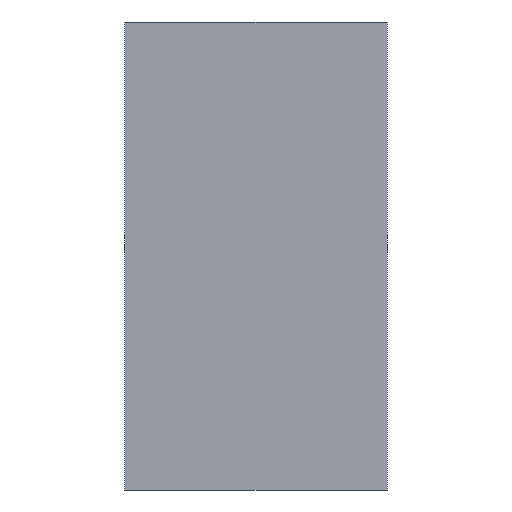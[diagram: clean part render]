
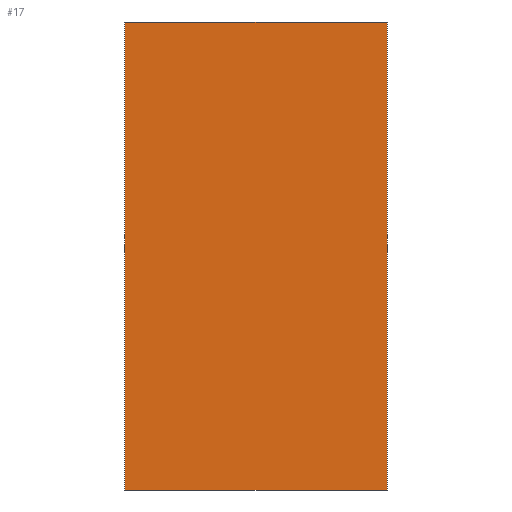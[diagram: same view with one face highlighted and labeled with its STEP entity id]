
A CAD part, left-side view. The second image highlights one B-rep face of the part: STEP entity #17.
In plain terms, the highlighted planar face has unit normal (-1, 0, 0).
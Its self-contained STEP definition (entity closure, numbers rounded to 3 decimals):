
#17 = ADVANCED_FACE('',(#18),#32,.F.);
#18 = FACE_BOUND('',#19,.F.);
#19 = EDGE_LOOP('',(#20,#55,#83,#111));
#20 = ORIENTED_EDGE('',*,*,#21,.F.);
#21 = EDGE_CURVE('',#22,#24,#26,.T.);
#22 = VERTEX_POINT('',#23);
#23 = CARTESIAN_POINT('',(78.,-28.,-305.));
#24 = VERTEX_POINT('',#25);
#25 = CARTESIAN_POINT('',(78.,-28.,-205.));
#26 = SURFACE_CURVE('',#27,(#31,#43),.PCURVE_S1.);
#27 = LINE('',#28,#29);
#28 = CARTESIAN_POINT('',(78.,-28.,-305.));
#29 = VECTOR('',#30,1.);
#30 = DIRECTION('',(0.,0.,1.));
#31 = PCURVE('',#32,#37);
#32 = PLANE('',#33);
#33 = AXIS2_PLACEMENT_3D('',#34,#35,#36);
#34 = CARTESIAN_POINT('',(78.,-28.,-305.));
#35 = DIRECTION('',(1.,0.,0.));
#36 = DIRECTION('',(0.,0.,1.));
#37 = DEFINITIONAL_REPRESENTATION('',(#38),#42);
#38 = LINE('',#39,#40);
#39 = CARTESIAN_POINT('',(0.,0.));
#40 = VECTOR('',#41,1.);
#41 = DIRECTION('',(1.,0.));
#42 = ( GEOMETRIC_REPRESENTATION_CONTEXT(2) 
PARAMETRIC_REPRESENTATION_CONTEXT() REPRESENTATION_CONTEXT('2D SPACE',''
  ) );
#43 = PCURVE('',#44,#49);
#44 = PLANE('',#45);
#45 = AXIS2_PLACEMENT_3D('',#46,#47,#48);
#46 = CARTESIAN_POINT('',(78.,-28.,-305.));
#47 = DIRECTION('',(0.,1.,0.));
#48 = DIRECTION('',(0.,0.,1.));
#49 = DEFINITIONAL_REPRESENTATION('',(#50),#54);
#50 = LINE('',#51,#52);
#51 = CARTESIAN_POINT('',(0.,0.));
#52 = VECTOR('',#53,1.);
#53 = DIRECTION('',(1.,0.));
#54 = ( GEOMETRIC_REPRESENTATION_CONTEXT(2) 
PARAMETRIC_REPRESENTATION_CONTEXT() REPRESENTATION_CONTEXT('2D SPACE',''
  ) );
#55 = ORIENTED_EDGE('',*,*,#56,.T.);
#56 = EDGE_CURVE('',#22,#57,#59,.T.);
#57 = VERTEX_POINT('',#58);
#58 = CARTESIAN_POINT('',(78.,28.,-305.));
#59 = SURFACE_CURVE('',#60,(#64,#71),.PCURVE_S1.);
#60 = LINE('',#61,#62);
#61 = CARTESIAN_POINT('',(78.,-28.,-305.));
#62 = VECTOR('',#63,1.);
#63 = DIRECTION('',(0.,1.,0.));
#64 = PCURVE('',#32,#65);
#65 = DEFINITIONAL_REPRESENTATION('',(#66),#70);
#66 = LINE('',#67,#68);
#67 = CARTESIAN_POINT('',(0.,0.));
#68 = VECTOR('',#69,1.);
#69 = DIRECTION('',(0.,-1.));
#70 = ( GEOMETRIC_REPRESENTATION_CONTEXT(2) 
PARAMETRIC_REPRESENTATION_CONTEXT() REPRESENTATION_CONTEXT('2D SPACE',''
  ) );
#71 = PCURVE('',#72,#77);
#72 = PLANE('',#73);
#73 = AXIS2_PLACEMENT_3D('',#74,#75,#76);
#74 = CARTESIAN_POINT('',(78.,-28.,-305.));
#75 = DIRECTION('',(0.,0.,1.));
#76 = DIRECTION('',(1.,0.,0.));
#77 = DEFINITIONAL_REPRESENTATION('',(#78),#82);
#78 = LINE('',#79,#80);
#79 = CARTESIAN_POINT('',(0.,0.));
#80 = VECTOR('',#81,1.);
#81 = DIRECTION('',(0.,1.));
#82 = ( GEOMETRIC_REPRESENTATION_CONTEXT(2) 
PARAMETRIC_REPRESENTATION_CONTEXT() REPRESENTATION_CONTEXT('2D SPACE',''
  ) );
#83 = ORIENTED_EDGE('',*,*,#84,.T.);
#84 = EDGE_CURVE('',#57,#85,#87,.T.);
#85 = VERTEX_POINT('',#86);
#86 = CARTESIAN_POINT('',(78.,28.,-205.));
#87 = SURFACE_CURVE('',#88,(#92,#99),.PCURVE_S1.);
#88 = LINE('',#89,#90);
#89 = CARTESIAN_POINT('',(78.,28.,-305.));
#90 = VECTOR('',#91,1.);
#91 = DIRECTION('',(0.,0.,1.));
#92 = PCURVE('',#32,#93);
#93 = DEFINITIONAL_REPRESENTATION('',(#94),#98);
#94 = LINE('',#95,#96);
#95 = CARTESIAN_POINT('',(0.,-56.));
#96 = VECTOR('',#97,1.);
#97 = DIRECTION('',(1.,0.));
#98 = ( GEOMETRIC_REPRESENTATION_CONTEXT(2) 
PARAMETRIC_REPRESENTATION_CONTEXT() REPRESENTATION_CONTEXT('2D SPACE',''
  ) );
#99 = PCURVE('',#100,#105);
#100 = PLANE('',#101);
#101 = AXIS2_PLACEMENT_3D('',#102,#103,#104);
#102 = CARTESIAN_POINT('',(78.,28.,-305.));
#103 = DIRECTION('',(0.,1.,0.));
#104 = DIRECTION('',(0.,0.,1.));
#105 = DEFINITIONAL_REPRESENTATION('',(#106),#110);
#106 = LINE('',#107,#108);
#107 = CARTESIAN_POINT('',(0.,0.));
#108 = VECTOR('',#109,1.);
#109 = DIRECTION('',(1.,0.));
#110 = ( GEOMETRIC_REPRESENTATION_CONTEXT(2) 
PARAMETRIC_REPRESENTATION_CONTEXT() REPRESENTATION_CONTEXT('2D SPACE',''
  ) );
#111 = ORIENTED_EDGE('',*,*,#112,.F.);
#112 = EDGE_CURVE('',#24,#85,#113,.T.);
#113 = SURFACE_CURVE('',#114,(#118,#125),.PCURVE_S1.);
#114 = LINE('',#115,#116);
#115 = CARTESIAN_POINT('',(78.,-28.,-205.));
#116 = VECTOR('',#117,1.);
#117 = DIRECTION('',(0.,1.,0.));
#118 = PCURVE('',#32,#119);
#119 = DEFINITIONAL_REPRESENTATION('',(#120),#124);
#120 = LINE('',#121,#122);
#121 = CARTESIAN_POINT('',(100.,0.));
#122 = VECTOR('',#123,1.);
#123 = DIRECTION('',(0.,-1.));
#124 = ( GEOMETRIC_REPRESENTATION_CONTEXT(2) 
PARAMETRIC_REPRESENTATION_CONTEXT() REPRESENTATION_CONTEXT('2D SPACE',''
  ) );
#125 = PCURVE('',#126,#131);
#126 = PLANE('',#127);
#127 = AXIS2_PLACEMENT_3D('',#128,#129,#130);
#128 = CARTESIAN_POINT('',(78.,-28.,-205.));
#129 = DIRECTION('',(0.,0.,1.));
#130 = DIRECTION('',(1.,0.,0.));
#131 = DEFINITIONAL_REPRESENTATION('',(#132),#136);
#132 = LINE('',#133,#134);
#133 = CARTESIAN_POINT('',(0.,0.));
#134 = VECTOR('',#135,1.);
#135 = DIRECTION('',(0.,1.));
#136 = ( GEOMETRIC_REPRESENTATION_CONTEXT(2) 
PARAMETRIC_REPRESENTATION_CONTEXT() REPRESENTATION_CONTEXT('2D SPACE',''
  ) );
